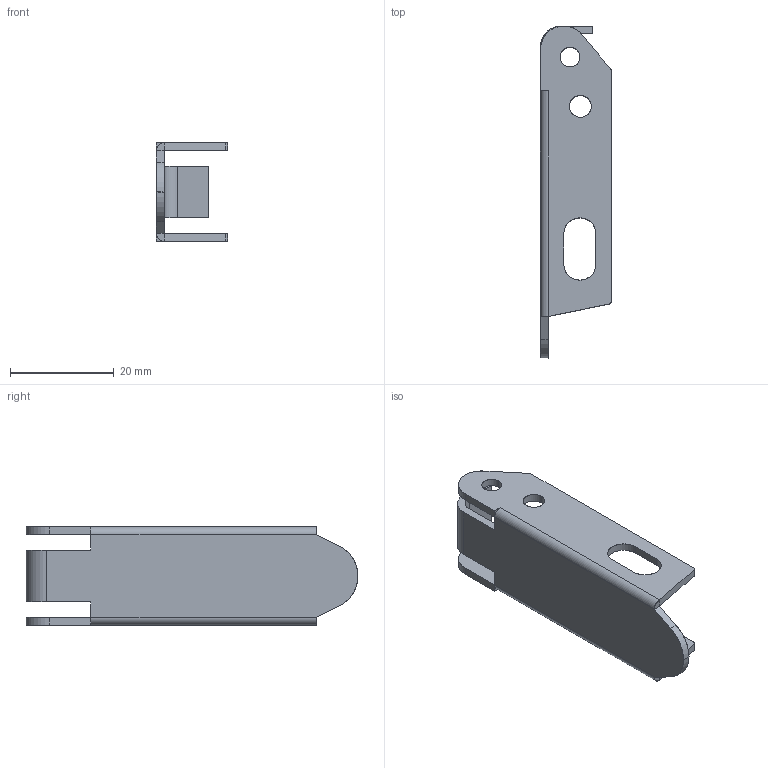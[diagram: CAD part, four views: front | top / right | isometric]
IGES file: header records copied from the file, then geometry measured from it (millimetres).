
Start section: SolidWorks IGES FILE using analytic representation for surfaces
Global section: file name: C:\Documents and Settings\brechard\Bureau\GE 577\545.010.00.IGS; native system: SolidWorks 2001Plus by SolidWorks Corporation; preprocessor: Version 5.3; author: brechard; date: 050126.100953; units: millimetre
Bounding box: 13.7 x 64 x 19 mm (x, y, z)
Surface area: 4965.7 mm2 (no closed solid volume)
Topology: 0 solids, 0 shells, 57 faces, 826 edges, 826 vertices
Faces by surface type: bspline 33, revolution 24
